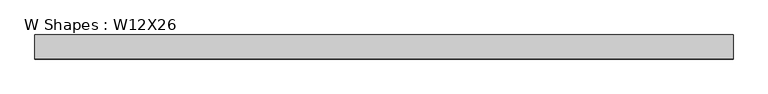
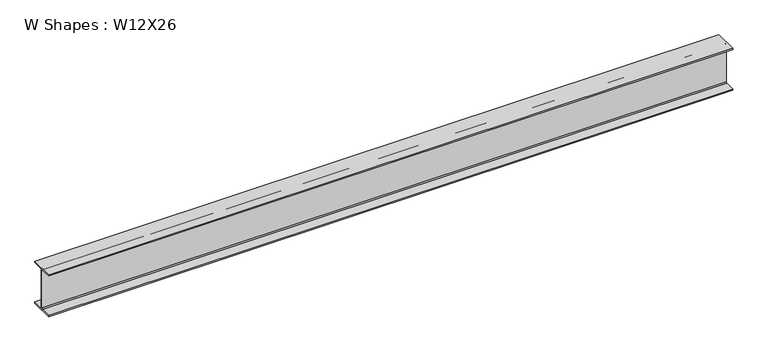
"""IFC4 building model written with IfcOpenShell, lengths in millimetres: beam geometry, W Shapes : W12X26."""

from ifc_helpers import new_model, si_unit, point, frame, frame_2d, origin, place, context, project, spatial, polyline, circle_curve, trimmed, segment, composite_curve, outline, extrude, source, transform, mapped, element, save


def w_shapes_w12x26_80971791(model_context):
    return source(origin(), model_context, "Body", "SweptSolid", [
        extrude(outline(composite_curve([segment(polyline([(82.423, -145.288), (82.423, -154.94), (-82.423, -154.94), (-82.423, -145.288), (-10.541, -145.288)]), True, "CONTINUOUS"), segment(trimmed(circle_curve(frame_2d((-10.541, -137.668)), 7.62), [point((-10.541, -145.288))], [point((-2.921, -137.668))], True, "CARTESIAN"), True, "CONTINUOUS"), segment(polyline([(-2.921, -137.668), (-2.921, 137.668)]), True, "CONTINUOUS"), segment(trimmed(circle_curve(frame_2d((-10.541, 137.668)), 7.62), [point((-2.921, 137.668))], [point((-10.541, 145.288))], True, "CARTESIAN"), True, "CONTINUOUS"), segment(polyline([(-10.541, 145.288), (-82.423, 145.288), (-82.423, 154.94), (82.423, 154.94), (82.423, 145.288), (10.541, 145.288)]), True, "CONTINUOUS"), segment(trimmed(circle_curve(frame_2d((10.541, 137.668)), 7.62), [point((10.541, 145.288))], [point((2.921, 137.668))], True, "CARTESIAN"), True, "CONTINUOUS"), segment(polyline([(2.921, 137.668), (2.921, -137.668)]), True, "CONTINUOUS"), segment(trimmed(circle_curve(frame_2d((10.541, -137.668)), 7.62), [point((2.921, -137.668))], [point((10.541, -145.288))], True, "CARTESIAN"), True, "CONTINUOUS"), segment(polyline([(10.541, -145.288), (82.423, -145.288)]), True, "CONTINUOUS")], self_intersect=False)), frame((-2389.4415, 0.0, 0.0), z_axis=(1.0, 0.0, 0.0), x_axis=(0.0, 1.0, 0.0)), (0.0, 0.0, 1.0), 4778.883),
    ])


if __name__ == "__main__":
    model = new_model("IFC4")
    model_context = context("Model", 3, world=origin())
    ifc_project = project(units=[si_unit("LENGTHUNIT", "METRE", prefix="MILLI")], contexts=[model_context])
    site = spatial("IfcSite", under=ifc_project)
    building = spatial("IfcBuilding", under=site)
    placement = place(None, origin())
    w_shapes_w12x26_shape = w_shapes_w12x26_80971791(model_context)
    element("IfcBeam", 1, ObjectType="W Shapes : W12X26", at=placement, inside=building, context=model_context, shape_type="MappedRepresentation", body=[
        mapped(w_shapes_w12x26_shape, transform((0.0, 0.0, 0.0), x_axis=(1.0, 0.0, 0.0), y_axis=(0.0, 1.0, 0.0), z_axis=(0.0, 0.0, 1.0))),
    ])
    save(model, "model.ifc")
